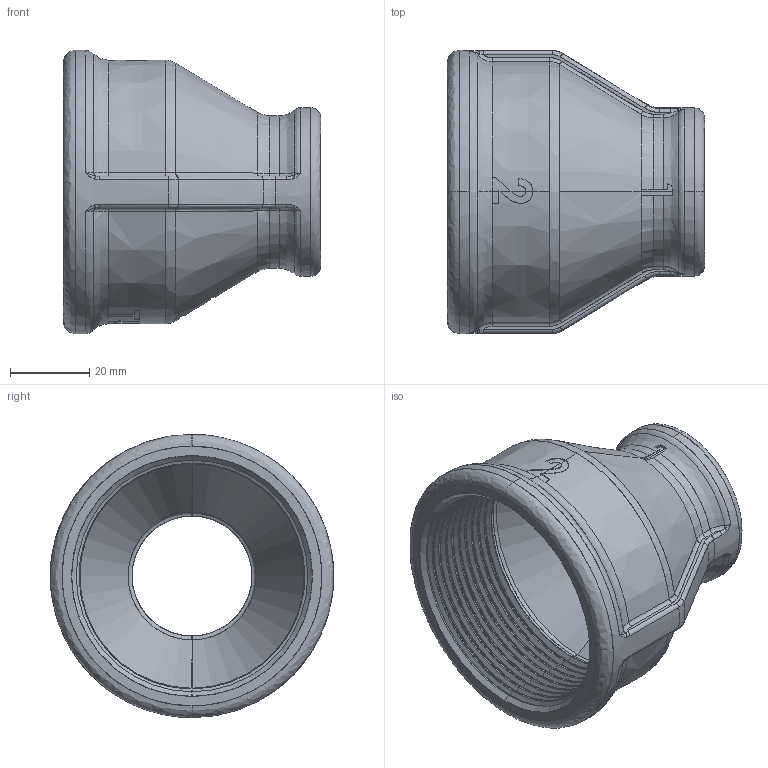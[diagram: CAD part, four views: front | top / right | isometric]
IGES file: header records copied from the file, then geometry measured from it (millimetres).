
Start section: SolidWorks IGES file using analytic representation for surfaces
Global section: file name: C:\Users\Joel Rosa\Desktop\Tubulação\12-32-OK\12-32-045.IGS; native system: SolidWorks 2011; preprocessor: SolidWorks 2011; author: Joel Rosa; date: 121208.225544; units: millimetre
Bounding box: 65 x 71.6 x 71.6 mm (x, y, z)
Surface area: 28467 mm2 (no closed solid volume)
Topology: 0 solids, 0 shells, 411 faces, 3361 edges, 3359 vertices
Faces by surface type: bspline 282, revolution 129
